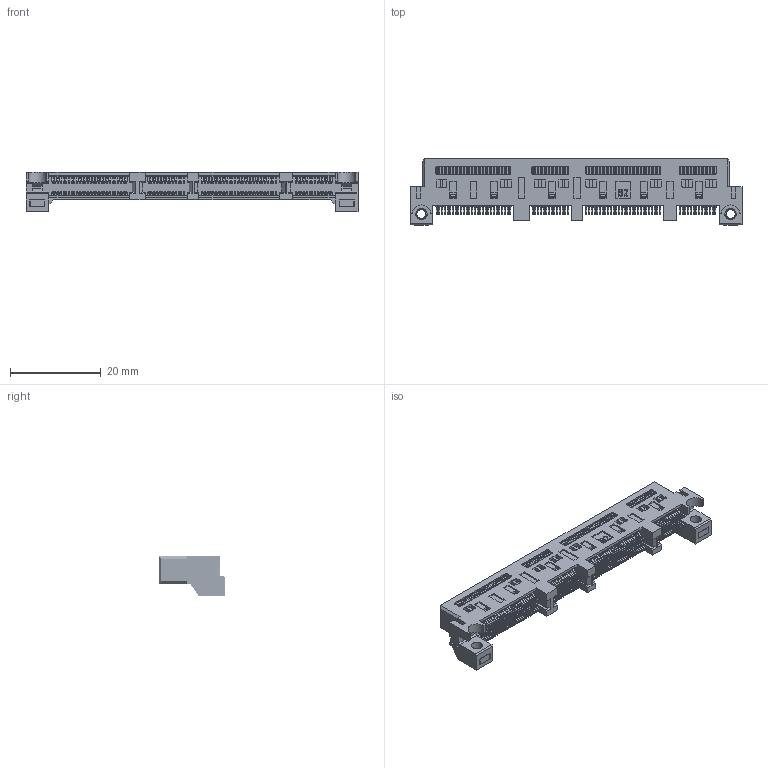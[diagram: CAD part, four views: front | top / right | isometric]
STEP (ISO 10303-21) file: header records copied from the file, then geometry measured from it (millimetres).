
FILE_DESCRIPTION((''),'2;1');
FILE_NAME('S-52726-168XX-XXX_REV','2021-12-23T11:57:44',('user'),(''),'CREO PARAMETRIC BY PTC INC, 2017110','CREO PARAMETRIC BY PTC INC, 2017110','');
FILE_SCHEMA(('AUTOMOTIVE_DESIGN { 1 0 10303 214 1 1 1 1 }'));
Products named in the file (1): S-52726-168XX-XXX_REV
Bounding box: 73 x 14.58 x 8.6 mm (x, y, z)
Volume: 3448.8 mm3; surface area: 5547.2 mm2
Topology: 1 solids, 1 shells, 10851 faces, 30889 edges, 21107 vertices
Faces by surface type: plane 6226, cylinder 3258, bspline 672, cone 336, torus 336, extrusion 23
Entity records: 543625 total; most frequent: CARTESIAN_POINT 162224, ORIENTED_EDGE 60434, DIRECTION 53105, PRESENTATION_STYLE_ASSIGNMENT 30975, STYLED_ITEM 30975, CURVE_STYLE 30974, EDGE_CURVE 30217, VECTOR 20599
